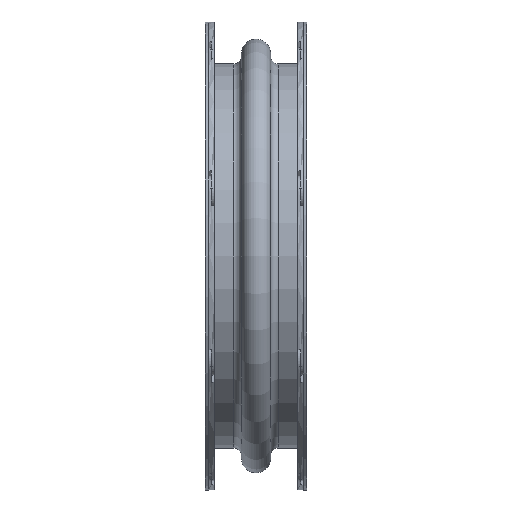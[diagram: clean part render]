
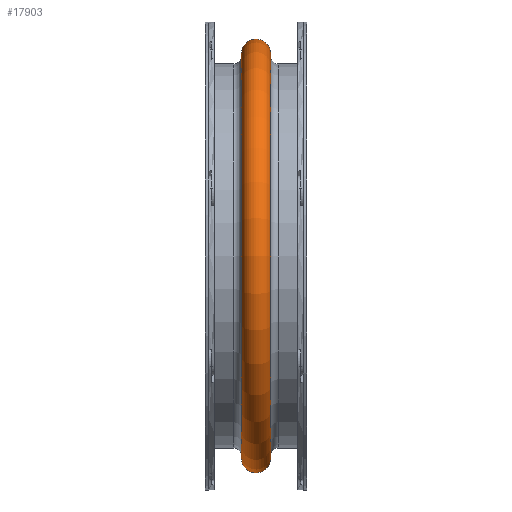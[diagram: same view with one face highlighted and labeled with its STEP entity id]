
A CAD part, front view. The second image highlights one B-rep face of the part: STEP entity #17903.
In plain terms, the highlighted toroidal (fillet/blend) face has major radius 504.825 mm and minor radius 36.513 mm.
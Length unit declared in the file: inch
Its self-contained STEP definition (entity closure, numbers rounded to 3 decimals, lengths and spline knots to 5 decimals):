
#2091=TOROIDAL_SURFACE('',#19062,19.875,1.4375);
#2268=FACE_BOUND('',#3863,.T.);
#2722=FACE_OUTER_BOUND('',#3862,.T.);
#3862=EDGE_LOOP('',(#11268));
#3863=EDGE_LOOP('',(#11269));
#5300=CIRCLE('',#19061,19.92263);
#5301=CIRCLE('',#19063,19.92263);
#6890=VERTEX_POINT('',#27866);
#6891=VERTEX_POINT('',#27869);
#8672=EDGE_CURVE('',#6890,#6890,#5300,.T.);
#8673=EDGE_CURVE('',#6891,#6891,#5301,.T.);
#11268=ORIENTED_EDGE('',*,*,#8673,.F.);
#11269=ORIENTED_EDGE('',*,*,#8672,.T.);
#17903=ADVANCED_FACE('',(#2722,#2268),#2091,.T.);
#19061=AXIS2_PLACEMENT_3D('',#27867,#21871,#21872);
#19062=AXIS2_PLACEMENT_3D('',#27868,#21873,#21874);
#19063=AXIS2_PLACEMENT_3D('',#27870,#21875,#21876);
#21871=DIRECTION('center_axis',(1.,0.,0.));
#21872=DIRECTION('ref_axis',(0.,0.,-1.));
#21873=DIRECTION('center_axis',(1.,0.,0.));
#21874=DIRECTION('ref_axis',(0.,0.,-1.));
#21875=DIRECTION('center_axis',(1.,0.,0.));
#21876=DIRECTION('ref_axis',(0.,0.,-1.));
#27866=CARTESIAN_POINT('',(-1.43671,19.92263,0.));
#27867=CARTESIAN_POINT('Origin',(-1.43671,0.,
0.));
#27868=CARTESIAN_POINT('Origin',(0.,0.,
0.));
#27869=CARTESIAN_POINT('',(1.43671,19.92263,0.));
#27870=CARTESIAN_POINT('Origin',(1.43671,0.,0.));
